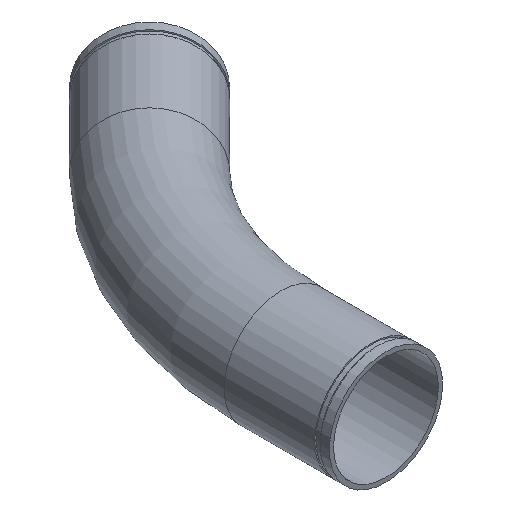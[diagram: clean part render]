
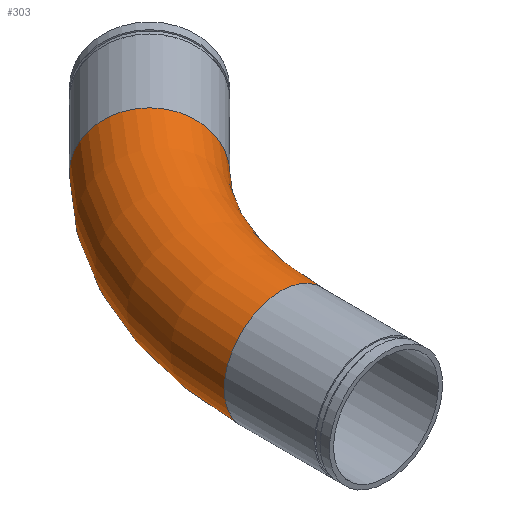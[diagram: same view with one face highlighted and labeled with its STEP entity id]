
A CAD part, isometric view. The second image highlights one B-rep face of the part: STEP entity #303.
In plain terms, the highlighted toroidal (fillet/blend) face has major radius 613.21 mm and minor radius 109.537 mm.
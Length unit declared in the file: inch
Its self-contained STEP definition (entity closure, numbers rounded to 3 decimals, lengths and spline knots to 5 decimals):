
#46=TOROIDAL_SURFACE('',#362,24.14214,4.3125);
#71=FACE_OUTER_BOUND('',#91,.T.);
#91=EDGE_LOOP('',(#250,#251,#252,#253,#254,#255));
#134=CIRCLE('',#360,4.3125);
#135=CIRCLE('',#361,4.3125);
#136=CIRCLE('',#363,19.82964);
#137=CIRCLE('',#364,4.3125);
#138=CIRCLE('',#365,4.3125);
#159=VERTEX_POINT('',#562);
#160=VERTEX_POINT('',#564);
#161=VERTEX_POINT('',#568);
#162=VERTEX_POINT('',#570);
#191=EDGE_CURVE('',#160,#159,#134,.T.);
#192=EDGE_CURVE('',#159,#160,#135,.T.);
#193=EDGE_CURVE('',#160,#161,#136,.T.);
#194=EDGE_CURVE('',#162,#161,#137,.T.);
#195=EDGE_CURVE('',#161,#162,#138,.T.);
#250=ORIENTED_EDGE('',*,*,#192,.T.);
#251=ORIENTED_EDGE('',*,*,#193,.T.);
#252=ORIENTED_EDGE('',*,*,#194,.F.);
#253=ORIENTED_EDGE('',*,*,#195,.F.);
#254=ORIENTED_EDGE('',*,*,#193,.F.);
#255=ORIENTED_EDGE('',*,*,#191,.T.);
#303=ADVANCED_FACE('',(#71),#46,.T.);
#360=AXIS2_PLACEMENT_3D('',#565,#457,#458);
#361=AXIS2_PLACEMENT_3D('',#566,#459,#460);
#362=AXIS2_PLACEMENT_3D('',#567,#461,#462);
#363=AXIS2_PLACEMENT_3D('',#569,#463,#464);
#364=AXIS2_PLACEMENT_3D('',#571,#465,#466);
#365=AXIS2_PLACEMENT_3D('',#572,#467,#468);
#457=DIRECTION('center_axis',(0.,1.,0.));
#458=DIRECTION('ref_axis',(1.,0.,0.));
#459=DIRECTION('center_axis',(0.,1.,0.));
#460=DIRECTION('ref_axis',(1.,0.,0.));
#461=DIRECTION('center_axis',(0.,0.,1.));
#462=DIRECTION('ref_axis',(1.,0.,0.));
#463=DIRECTION('center_axis',(0.,0.,-1.));
#464=DIRECTION('ref_axis',(1.,0.,0.));
#465=DIRECTION('center_axis',(0.707,0.707,0.));
#466=DIRECTION('ref_axis',(0.707,-0.707,0.));
#467=DIRECTION('center_axis',(0.707,0.707,0.));
#468=DIRECTION('ref_axis',(0.707,-0.707,0.));
#562=CARTESIAN_POINT('',(-4.3125,-10.,0.));
#564=CARTESIAN_POINT('',(4.3125,-10.,0.));
#565=CARTESIAN_POINT('Origin',(0.,-10.,0.));
#566=CARTESIAN_POINT('Origin',(0.,-10.,0.));
#567=CARTESIAN_POINT('Origin',(24.14214,-10.,0.));
#568=CARTESIAN_POINT('',(10.12047,4.02167,0.));
#569=CARTESIAN_POINT('Origin',(24.14214,-10.,0.));
#570=CARTESIAN_POINT('',(4.02167,10.12047,0.));
#571=CARTESIAN_POINT('Origin',(7.07107,7.07107,0.));
#572=CARTESIAN_POINT('Origin',(7.07107,7.07107,0.));
